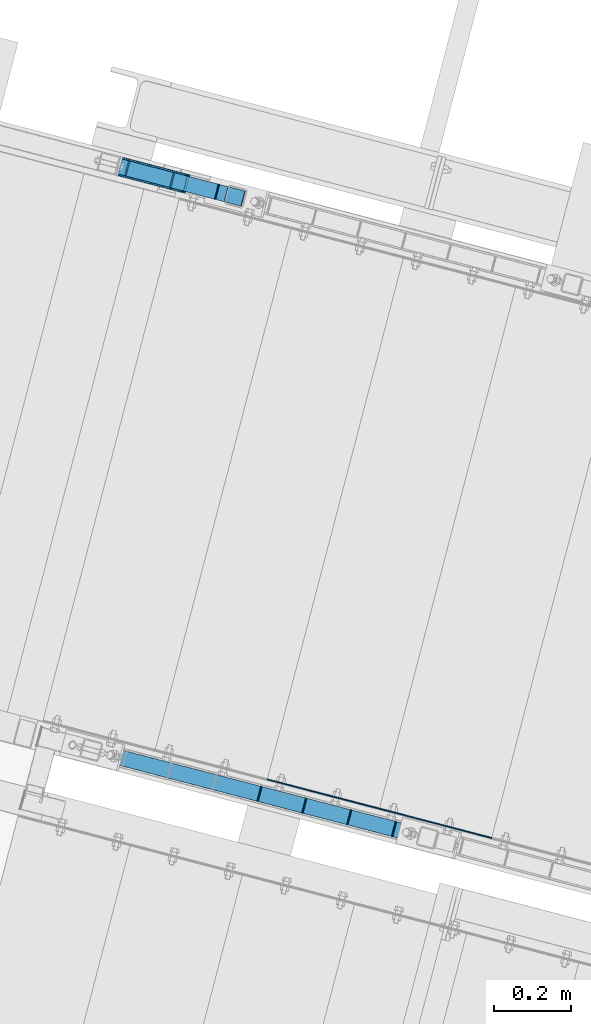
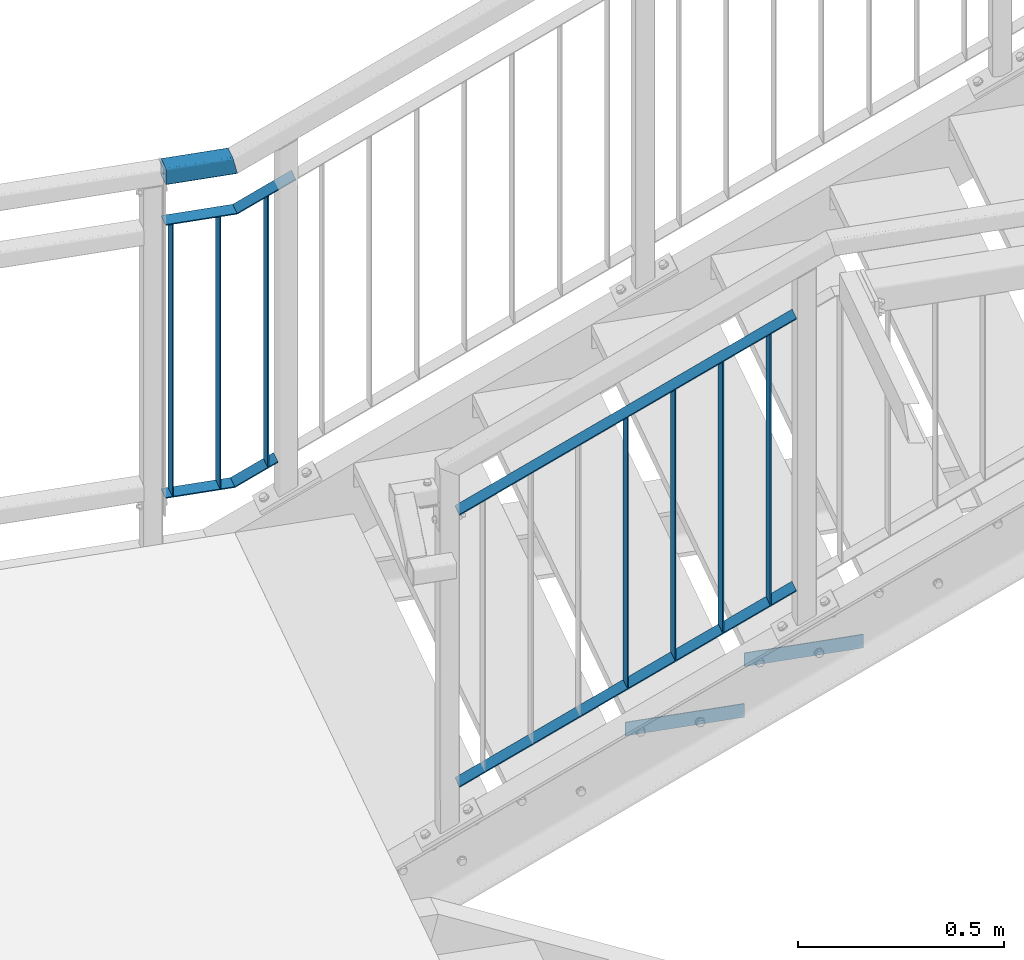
# One storey, part 73 of 169: 16 discrete accessories, 4 elements without a shape of their own.
"""IFC2X3 building model written with IfcOpenShell, lengths in millimetres."""

import ifcopenshell
import ifcopenshell.guid

model = None  # the IFC model being written
_history = None  # IfcOwnerHistory: only IFC2X3 demands one
_inside = {}  # id of a spatial element -> (the spatial element, [elements in it])
_under = {}  # id of a project, library or spatial element -> (it, [spatial elements below it])
_declared = {}  # id of a project -> (the project, [libraries it declares])
_typed = {}  # id of a type object -> (the type object, [elements of that type])
_made_of = {}  # id of a material, layer set ... -> (it, [elements and type objects made of it])


def new_model(schema):
    """Start an empty IFC model of exactly this schema.

    Asked for "IFC4X3", IfcOpenShell would pick the latest addendum, in which some entities
    have other attributes; the version numbers below select the first issue.
    IFC2X3 requires an IfcOwnerHistory on every rooted entity: one is made here for all.
    """
    global model, _history
    if schema == "IFC4X3":
        model = ifcopenshell.file(schema_version=(4, 3, 0, 0))
    else:
        model = ifcopenshell.file(schema=schema)
    _inside.clear()
    _under.clear()
    _declared.clear()
    _typed.clear()
    _made_of.clear()
    _history = None
    if model.schema == "IFC2X3":
        org = make("IfcOrganization", Name="unknown")
        user = make(
            "IfcPersonAndOrganization",
            ThePerson=make("IfcPerson", FamilyName="unknown"),
            TheOrganization=org,
        )
        app = make(
            "IfcApplication",
            ApplicationDeveloper=org,
            Version="unknown",
            ApplicationFullName="unknown",
            ApplicationIdentifier="unknown",
        )
        _history = make(
            "IfcOwnerHistory",
            OwningUser=user,
            OwningApplication=app,
            ChangeAction="ADDED",
            CreationDate=0,
        )
    return model


def make(cls, **values):
    """One entity of the class cls with the attributes given. An attribute that is None is left unset."""
    return model.create_entity(
        cls, **{name: value for name, value in values.items() if value is not None}
    )


def rooted(cls, **values):
    """An entity with a GlobalId (a new one), such as an element, a storey or a relation."""
    return make(cls, GlobalId=ifcopenshell.guid.new(), OwnerHistory=_history, **values)


def si_unit(unit_type, name, prefix=None):
    """IfcSIUnit, for example si_unit("LENGTHUNIT", "METRE", prefix="MILLI")."""
    return make("IfcSIUnit", UnitType=unit_type, Prefix=prefix, Name=name)


def assignment(units):
    """IfcUnitAssignment: the units of a project."""
    return None if units is None else make("IfcUnitAssignment", Units=units)


def point(xyz):
    """IfcCartesianPoint."""
    return None if xyz is None else make("IfcCartesianPoint", Coordinates=xyz)


def direction(xyz):
    """IfcDirection."""
    return None if xyz is None else make("IfcDirection", DirectionRatios=xyz)


def frame(location, z_axis=None, x_axis=None):
    """IfcAxis2Placement3D, a coordinate frame: its origin and axes. An axis left out is left unset."""
    return make(
        "IfcAxis2Placement3D",
        Location=point(location),
        Axis=direction(z_axis),
        RefDirection=direction(x_axis),
    )


def frame_2d(location, x_axis=None):
    """IfcAxis2Placement2D, a coordinate frame in the plane: its origin and x axis."""
    return make(
        "IfcAxis2Placement2D", Location=point(location), RefDirection=direction(x_axis)
    )


def origin_with_axes():
    """The frame at (0, 0, 0) with the z axis (0, 0, 1) and the x axis (1, 0, 0) written out."""
    return frame((0.0, 0.0, 0.0), z_axis=(0.0, 0.0, 1.0), x_axis=(1.0, 0.0, 0.0))


def origin_2d_with_axis():
    """The frame at (0, 0) in the plane with the x axis (1, 0) written out."""
    return frame_2d((0.0, 0.0), x_axis=(1.0, 0.0))


def place(relative_to, where):
    """IfcLocalPlacement: puts the frame where relative to a parent placement (None: the world)."""
    return make(
        "IfcLocalPlacement", PlacementRelTo=relative_to, RelativePlacement=where
    )


def context(
    kind, dimensions, precision=None, world=None, true_north=None, identifier=None
):
    """IfcGeometricRepresentationContext, for example the 3D "Model" context."""
    return make(
        "IfcGeometricRepresentationContext",
        ContextIdentifier=identifier,
        ContextType=kind,
        CoordinateSpaceDimension=dimensions,
        Precision=precision,
        WorldCoordinateSystem=world,
        TrueNorth=true_north,
    )


def subcontext(parent, identifier, kind, view, scale=None):
    """IfcGeometricRepresentationSubContext, for example "Body" below "Model"."""
    return make(
        "IfcGeometricRepresentationSubContext",
        ContextIdentifier=identifier,
        ContextType=kind,
        ParentContext=parent,
        TargetScale=scale,
        TargetView=view,
    )


def project(units=None, contexts=None):
    """IfcProject with its units and contexts."""
    return rooted(
        "IfcProject",
        Name="project",
        RepresentationContexts=contexts,
        UnitsInContext=assignment(units),
    )


def spatial(cls, under=None, at=None, **own):
    """A site, building, storey or space (cls), placed at a placement, below another one or the project."""
    s = rooted(cls, ObjectPlacement=at, **own)
    if under is not None:
        _under.setdefault(under.id(), (under, []))[1].append(s)
    return s


def polyline(points):
    """IfcPolyline through the points."""
    return make("IfcPolyline", Points=[point(p) for p in points])


def profile(cls, at=None, kind="AREA", **sizes):
    """A parametric profile (cls). Its sizes go by their IFC names, for example OverallWidth=200.0."""
    return make(cls, ProfileType=kind, Position=at, **sizes)


def rectangle(**sizes):
    """IfcRectangleProfileDef."""
    return profile("IfcRectangleProfileDef", **sizes)


def hollow_rectangle(**sizes):
    """IfcRectangleHollowProfileDef."""
    return profile("IfcRectangleHollowProfileDef", **sizes)


def outline(outer, holes=None, kind="AREA"):
    """IfcArbitraryClosedProfileDef: a profile drawn as a closed curve; with holes, ...WithVoids."""
    if holes is None:
        return make("IfcArbitraryClosedProfileDef", ProfileType=kind, OuterCurve=outer)
    return make(
        "IfcArbitraryProfileDefWithVoids",
        ProfileType=kind,
        OuterCurve=outer,
        InnerCurves=holes,
    )


def extrude(swept, where, along, depth):
    """IfcExtrudedAreaSolid: the profile swept, set in the frame where, extruded along a direction by depth."""
    return make(
        "IfcExtrudedAreaSolid",
        SweptArea=swept,
        Position=where,
        ExtrudedDirection=direction(along),
        Depth=depth,
    )


def boolean(op, a, b):
    """IfcBooleanResult of two solids."""
    return make("IfcBooleanResult", Operator=op, FirstOperand=a, SecondOperand=b)


def clip(a, b, op="DIFFERENCE"):
    """IfcBooleanClippingResult: the solid a cut by the half space b."""
    return make(
        "IfcBooleanClippingResult", Operator=op, FirstOperand=a, SecondOperand=b
    )


def halfspace(plane, agree):
    """IfcHalfSpaceSolid: all space on one side of the plane z = 0 of the frame plane."""
    return make(
        "IfcHalfSpaceSolid",
        BaseSurface=make("IfcPlane", Position=plane),
        AgreementFlag=agree,
    )


def shape(context_of_items, identifier, shape_type, items):
    """IfcShapeRepresentation: the items that make up one representation, for example the "Body"."""
    return make(
        "IfcShapeRepresentation",
        ContextOfItems=context_of_items,
        RepresentationIdentifier=identifier,
        RepresentationType=shape_type,
        Items=items,
    )


def material(Name=None, Category=None):
    """IfcMaterial."""
    return make("IfcMaterial", Name=Name, Category=Category)


def made_of(thing, what):
    """Note that an element or type object is made of a material, layer set ...; save() writes the relation."""
    if what is not None:
        _made_of.setdefault(what.id(), (what, []))[1].append(thing)
    return thing


def type_object(cls, material=None, **own):
    """A type object (cls), such as IfcWallType, which elements share."""
    return made_of(rooted(cls, **own), material)


def element(
    cls,
    number,
    at=None,
    inside=None,
    cuts=None,
    type_object=None,
    material=None,
    context=None,
    identifier="Body",
    shape_type=None,
    held_by="IfcProductDefinitionShape",
    body=None,
    shapes=None,
    **own,
):
    """One element of the class cls, such as IfcWall. Its Tag is "e" and its number.

    at: its placement. inside: the storey or other place that contains it. cuts: it is an
    opening in that element (IfcRelVoidsElement). A single representation is given by context,
    identifier, shape_type and body (its items); several are given by shapes. held_by: the class
    of the entity that holds the representations. save() writes the other relations.
    """
    e = rooted(cls, Tag="e%d" % number, ObjectPlacement=at, **own)
    if body is not None:
        shapes = [shape(context, identifier, shape_type, body)]
    if shapes is not None:
        e.Representation = make(held_by, Representations=shapes)
    if inside is not None:
        _inside.setdefault(inside.id(), (inside, []))[1].append(e)
    if cuts is not None:
        rooted(
            "IfcRelVoidsElement", RelatingBuildingElement=cuts, RelatedOpeningElement=e
        )
    if type_object is not None:
        _typed.setdefault(type_object.id(), (type_object, []))[1].append(e)
    return made_of(e, material)


def aggregate(whole, parts):
    """IfcRelAggregates: a whole, such as a stair, and the parts it consists of."""
    return rooted("IfcRelAggregates", RelatingObject=whole, RelatedObjects=parts)


def save(model, path):
    """Write the relations noted so far, then the file.

    IfcRelAggregates (storeys below a building ...), IfcRelContainedInSpatialStructure (elements
    in a storey), IfcRelDefinesByType, IfcRelAssociatesMaterial and IfcRelDeclares: one each for
    every whole, place, type object, material and project.
    """
    for whole, parts in _under.values():
        aggregate(whole, parts)
    for where, things in _inside.values():
        rooted(
            "IfcRelContainedInSpatialStructure",
            RelatedElements=things,
            RelatingStructure=where,
        )
    for kind, things in _typed.values():
        rooted("IfcRelDefinesByType", RelatedObjects=things, RelatingType=kind)
    for what, things in _made_of.values():
        rooted("IfcRelAssociatesMaterial", RelatedObjects=things, RelatingMaterial=what)
    for by, libraries in _declared.values():
        rooted("IfcRelDeclares", RelatingContext=by, RelatedDefinitions=libraries)
    model.write(path)


model = new_model("IFC2X3")

# Units and contexts
model_context = context("Model", 3, precision=1e-05, world=origin_with_axes())
body_context = subcontext(model_context, "Body", "Model", "MODEL_VIEW")
ifc_project = project(units=[si_unit("LENGTHUNIT", "METRE", prefix="MILLI"), si_unit("AREAUNIT", "SQUARE_METRE"), si_unit("VOLUMEUNIT", "CUBIC_METRE"), si_unit("MASSUNIT", "GRAM", prefix="KILO"), si_unit("TIMEUNIT", "SECOND"), si_unit("PLANEANGLEUNIT", "RADIAN"), si_unit("SOLIDANGLEUNIT", "STERADIAN"), si_unit("THERMODYNAMICTEMPERATUREUNIT", "DEGREE_CELSIUS"), si_unit("LUMINOUSINTENSITYUNIT", "LUMEN")], contexts=[model_context])

# Site, building, storey
site_placement = place(None, origin_with_axes())
site = spatial("IfcSite", under=ifc_project, at=site_placement, Name="Undefined", CompositionType="ELEMENT")
building_placement = place(site_placement, origin_with_axes())
building = spatial("IfcBuilding", under=site, at=building_placement, Name="Undefined", CompositionType="ELEMENT")
storey_placement = place(building_placement, origin_with_axes())
storey = spatial("IfcBuildingStorey", under=building, at=storey_placement, Name="Undefined", CompositionType="ELEMENT", Elevation=0.0)

# Assembly, discrete accessories
assembly_1_placement = place(storey_placement, origin_with_axes())
assembly_1 = element("IfcElementAssembly", 1, at=assembly_1_placement, inside=storey, Name="Steel Assembly", AssemblyPlace="NOTDEFINED", PredefinedType="RIGID_FRAME")
ifc_material_1 = material(Name="STEEL/S235")
discrete_accessory_type_1 = type_object("IfcDiscreteAccessoryType", Name="PORĘCZ")
discrete_accessory_1_placement = place(assembly_1_placement, frame((-26903.9140557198, 7103.61228726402, 13834.2487763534), z_axis=(-0.252628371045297, -0.967563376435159, 0.000136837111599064), x_axis=(-0.8654304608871, 0.225898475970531, -0.447213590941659)))
discrete_accessory_1 = element("IfcDiscreteAccessory", 2, at=discrete_accessory_1_placement, type_object=discrete_accessory_type_1, material=ifc_material_1, Name="PORĘCZ", ObjectType="BL40*3", context=body_context, shape_type="Clipping", body=[
    clip(clip(extrude(rectangle(XDim=3.0, YDim=40.0, at=origin_2d_with_axis()), frame((1019.8269139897, 5.66117660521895e-14, 8.60393801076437e-13), z_axis=(-1.0, -3.46944695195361e-18, -1.38777878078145e-17), x_axis=(1.73472347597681e-18, -1.0, 0.0)), (0.0, 0.0, 1.0), 988.69), halfspace(frame((1006.23639287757, 11.1803398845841, 1000.00000000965), z_axis=(-0.89442719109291, 0.44721359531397, 3.67724048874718e-10), x_axis=(-0.44721359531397, -0.89442719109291, 6.42512531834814e-12)), True)), halfspace(frame((44.727161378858, -11.1803398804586, 999.999999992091), z_axis=(0.894427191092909, -0.447213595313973, -3.67723235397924e-10), x_axis=(0.447213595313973, 0.894427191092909, -6.42523900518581e-12)), True)),
])
discrete_accessory_2_placement = place(assembly_1_placement, frame((-27358.6768775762, 7222.33740801, 13747.1970323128), z_axis=(-0.967563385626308, 0.252628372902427, -1.72000000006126e-07), x_axis=(-3.45692487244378e-05, -0.000132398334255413, -0.999999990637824)))
discrete_accessory_2 = element("IfcDiscreteAccessory", 3, at=discrete_accessory_2_placement, type_object=discrete_accessory_type_1, material=ifc_material_1, Name="PORĘCZ", ObjectType="BL40*3", context=body_context, shape_type="Clipping", body=[
    clip(clip(clip(extrude(outline(polyline([(953.32294910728, 20.0000000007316), (953.322949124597, -19.9999999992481), (149.627900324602, -19.9999999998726), (149.627900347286, 20.0000000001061), (953.32294910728, 20.0000000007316)])), frame((1.81898940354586e-12, -1.77635442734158e-15, -1.50000000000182), z_axis=(0.0, 0.0, 1.0), x_axis=(1.0, 0.0, 0.0)), (0.0, 0.0, 1.0), 3.0), halfspace(frame((149.292490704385, 1000.00000000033, -0.670820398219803), z_axis=(0.894427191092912, -5.07357340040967e-10, -0.447213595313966), x_axis=(-0.447213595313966, -3.31775709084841e-10, -0.894427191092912)), True)), halfspace(frame((953.658358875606, 1000.00000000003, 0.670820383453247), z_axis=(-0.89442719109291, -3.87067713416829e-10, 0.44721359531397), x_axis=(0.44721359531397, 3.3177479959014e-10, 0.89442719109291)), True)), halfspace(frame((22.3606799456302, 999.999999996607, -11.1803398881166), z_axis=(0.894427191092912, -5.07357340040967e-10, -0.447213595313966), x_axis=(-0.447213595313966, -3.31775709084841e-10, -0.894427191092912)), True)),
])
discrete_accessory_3_placement = place(assembly_1_placement, frame((-27242.5671971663, 7192.02994716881, 13807.1970316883), z_axis=(-0.967563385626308, 0.252628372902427, -1.72000000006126e-07), x_axis=(-3.45692487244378e-05, -0.000132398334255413, -0.999999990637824)))
discrete_accessory_3 = element("IfcDiscreteAccessory", 4, at=discrete_accessory_3_placement, type_object=discrete_accessory_type_1, material=ifc_material_1, Name="PORĘCZ", ObjectType="BL40*3", context=body_context, shape_type="Clipping", body=[
    clip(clip(clip(extrude(outline(polyline([(953.32294910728, 20.0000000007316), (953.322949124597, -19.9999999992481), (149.627900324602, -19.9999999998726), (149.627900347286, 20.0000000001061), (953.32294910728, 20.0000000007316)])), frame((1.81898940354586e-12, -1.77635442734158e-15, -1.50000000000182), z_axis=(0.0, 0.0, 1.0), x_axis=(1.0, 0.0, 0.0)), (0.0, 0.0, 1.0), 3.0), halfspace(frame((149.292490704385, 1000.00000000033, -0.670820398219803), z_axis=(0.894427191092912, -5.07357340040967e-10, -0.447213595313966), x_axis=(-0.447213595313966, -3.31775709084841e-10, -0.894427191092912)), True)), halfspace(frame((953.658358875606, 1000.00000000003, 0.670820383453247), z_axis=(-0.89442719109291, -3.87067713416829e-10, 0.44721359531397), x_axis=(0.44721359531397, 3.3177479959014e-10, 0.89442719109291)), True)), halfspace(frame((22.3606799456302, 999.999999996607, -11.1803398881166), z_axis=(0.894427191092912, -5.07357340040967e-10, -0.447213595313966), x_axis=(-0.447213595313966, -3.31775709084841e-10, -0.894427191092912)), True)),
])
discrete_accessory_4_placement = place(assembly_1_placement, frame((-27126.4575167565, 7161.72248632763, 13867.1970310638), z_axis=(-0.967563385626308, 0.252628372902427, -1.72000000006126e-07), x_axis=(-3.45692487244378e-05, -0.000132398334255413, -0.999999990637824)))
discrete_accessory_4 = element("IfcDiscreteAccessory", 5, at=discrete_accessory_4_placement, type_object=discrete_accessory_type_1, material=ifc_material_1, Name="PORĘCZ", ObjectType="BL40*3", context=body_context, shape_type="Clipping", body=[
    clip(clip(clip(extrude(outline(polyline([(953.32294910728, 20.0000000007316), (953.322949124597, -19.9999999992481), (149.627900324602, -19.9999999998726), (149.627900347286, 20.0000000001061), (953.32294910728, 20.0000000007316)])), frame((1.81898940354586e-12, -1.77635442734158e-15, -1.50000000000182), z_axis=(0.0, 0.0, 1.0), x_axis=(1.0, 0.0, 0.0)), (0.0, 0.0, 1.0), 3.0), halfspace(frame((149.292490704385, 1000.00000000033, -0.670820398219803), z_axis=(0.894427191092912, -5.07357340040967e-10, -0.447213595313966), x_axis=(-0.447213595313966, -3.31775709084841e-10, -0.894427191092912)), True)), halfspace(frame((953.658358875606, 1000.00000000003, 0.670820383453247), z_axis=(-0.89442719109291, -3.87067713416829e-10, 0.44721359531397), x_axis=(0.44721359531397, 3.3177479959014e-10, 0.89442719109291)), True)), halfspace(frame((22.3606799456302, 999.999999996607, -11.1803398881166), z_axis=(0.894427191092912, -5.07357340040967e-10, -0.447213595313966), x_axis=(-0.447213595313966, -3.31775709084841e-10, -0.894427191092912)), True)),
])
discrete_accessory_5_placement = place(assembly_1_placement, frame((-27010.3478363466, 7131.41502548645, 13927.1970304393), z_axis=(-0.967563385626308, 0.252628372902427, -1.72000000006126e-07), x_axis=(-3.45692487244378e-05, -0.000132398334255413, -0.999999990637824)))
discrete_accessory_5 = element("IfcDiscreteAccessory", 6, at=discrete_accessory_5_placement, type_object=discrete_accessory_type_1, material=ifc_material_1, Name="PORĘCZ", ObjectType="BL40*3", context=body_context, shape_type="Clipping", body=[
    clip(clip(clip(extrude(outline(polyline([(953.32294910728, 20.0000000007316), (953.322949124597, -19.9999999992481), (149.627900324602, -19.9999999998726), (149.627900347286, 20.0000000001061), (953.32294910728, 20.0000000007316)])), frame((1.81898940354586e-12, -1.77635442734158e-15, -1.50000000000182), z_axis=(0.0, 0.0, 1.0), x_axis=(1.0, 0.0, 0.0)), (0.0, 0.0, 1.0), 3.0), halfspace(frame((149.292490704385, 1000.00000000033, -0.670820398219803), z_axis=(0.894427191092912, -5.07357340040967e-10, -0.447213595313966), x_axis=(-0.447213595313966, -3.31775709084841e-10, -0.894427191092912)), True)), halfspace(frame((953.658358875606, 1000.00000000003, 0.670820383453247), z_axis=(-0.89442719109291, -3.87067713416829e-10, 0.44721359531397), x_axis=(0.44721359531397, 3.3177479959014e-10, 0.89442719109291)), True)), halfspace(frame((22.3606799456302, 999.999999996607, -11.1803398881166), z_axis=(0.894427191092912, -5.07357340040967e-10, -0.447213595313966), x_axis=(-0.447213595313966, -3.31775709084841e-10, -0.894427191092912)), True)),
])
discrete_accessory_6_placement = place(assembly_1_placement, frame((-27818.310709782, 7342.17800012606, 12554.6970434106), z_axis=(-0.252628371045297, -0.967563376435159, 0.000136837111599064), x_axis=(0.8654304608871, -0.225898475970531, 0.447213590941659)))
discrete_accessory_6 = element("IfcDiscreteAccessory", 7, at=discrete_accessory_6_placement, type_object=discrete_accessory_type_1, material=ifc_material_1, Name="PORĘCZ", ObjectType="BL40*3", context=body_context, shape_type="CSG", body=[
    boolean("DIFFERENCE", boolean("DIFFERENCE", boolean("DIFFERENCE", boolean("DIFFERENCE", extrude(rectangle(XDim=3.0, YDim=40.0, at=origin_2d_with_axis()), frame((1024.28206810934, -3.694837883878e-12, -9.23073055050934e-13), z_axis=(-1.0, -3.46944695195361e-18, -1.38777878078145e-17), x_axis=(1.73472347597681e-18, -1.0, 0.0)), (0.0, 0.0, 1.0), 986.43), extrude(rectangle(XDim=51.0, YDim=51.0, at=origin_2d_with_axis()), frame((84.9705831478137, 114.03946683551, -1.13972362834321e-07), z_axis=(-0.44721359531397, -0.89442719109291, 6.42512531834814e-12), x_axis=(0.894427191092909, -0.447213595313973, -3.67723235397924e-10)), (0.0, 0.0, 1.0), 280.0)), extrude(rectangle(XDim=51.0, YDim=51.0, at=origin_2d_with_axis()), frame((1096.79134416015, 125.219806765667, -4.99262399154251e-07), z_axis=(-0.44721359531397, -0.89442719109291, 6.42512531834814e-12), x_axis=(0.894427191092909, -0.447213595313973, -3.67723235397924e-10)), (0.0, 0.0, 1.0), 280.0)), halfspace(frame((1011.8207607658, 11.1803398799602, 999.999999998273), z_axis=(-0.89442719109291, 0.44721359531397, 3.67724048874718e-10), x_axis=(-0.44721359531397, -0.89442719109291, 6.42512531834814e-12)), True)), halfspace(frame((50.3115292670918, -11.1803398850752, 1000.00000000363), z_axis=(0.894427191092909, -0.447213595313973, -3.67723235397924e-10), x_axis=(0.447213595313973, 0.894427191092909, -6.42523900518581e-12)), True)),
])
aggregate(assembly_1, [discrete_accessory_1, discrete_accessory_2, discrete_accessory_3, discrete_accessory_4, discrete_accessory_5, discrete_accessory_6])

assembly_2_placement = place(storey_placement, origin_with_axes())
assembly_2 = element("IfcElementAssembly", 8, at=assembly_2_placement, inside=storey, Name="Steel Assembly", AssemblyPlace="NOTDEFINED", PredefinedType="RIGID_FRAME")
discrete_accessory_7_placement = place(assembly_2_placement, frame((-27700.7938893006, 8841.237541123, 13454.9945164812), z_axis=(-0.967563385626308, 0.252628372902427, -1.72000000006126e-07), x_axis=(-3.45692487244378e-05, -0.000132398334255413, -0.999999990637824)))
discrete_accessory_7 = element("IfcDiscreteAccessory", 9, at=discrete_accessory_7_placement, type_object=discrete_accessory_type_1, material=ifc_material_1, Name="PORĘCZ", ObjectType="BL40*3", context=body_context, shape_type="Clipping", body=[
    clip(clip(extrude(outline(polyline([(953.5, 20.0000000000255), (953.5, -20.0000000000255), (146.5, -20.0000000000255), (146.5, 20.0000000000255), (953.5, 20.0000000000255)])), frame((1.81898940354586e-12, -1.77635442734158e-15, -1.50000000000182), z_axis=(0.0, 0.0, 1.0), x_axis=(1.0, 0.0, 0.0)), (0.0, 0.0, 1.0), 3.0), halfspace(frame((146.5, 1000.00000000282, -1.78988557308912e-09), z_axis=(1.0, 0.0, 0.0), x_axis=(-2.54700353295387e-10, 0.0, -1.0)), True)), halfspace(frame((953.5, 999.999999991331, -2.08819983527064e-09), z_axis=(-1.0, -3.46944695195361e-18, -1.38777878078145e-17), x_axis=(0.0, 0.0, 1.0)), True)),
])
discrete_accessory_8_placement = place(assembly_2_placement, frame((-27584.6862830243, 8810.92213637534, 13454.9945164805), z_axis=(-0.967563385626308, 0.252628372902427, -1.72000000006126e-07), x_axis=(-3.45692487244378e-05, -0.000132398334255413, -0.999999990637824)))
discrete_accessory_8 = element("IfcDiscreteAccessory", 10, at=discrete_accessory_8_placement, type_object=discrete_accessory_type_1, material=ifc_material_1, Name="PORĘCZ", ObjectType="BL40*3", context=body_context, shape_type="Clipping", body=[
    clip(clip(extrude(outline(polyline([(953.5, 20.0000000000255), (953.5, -20.0000000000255), (146.5, -20.0000000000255), (146.5, 20.0000000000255), (953.5, 20.0000000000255)])), frame((1.81898940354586e-12, -1.77635442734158e-15, -1.50000000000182), z_axis=(0.0, 0.0, 1.0), x_axis=(1.0, 0.0, 0.0)), (0.0, 0.0, 1.0), 3.0), halfspace(frame((146.5, 1000.00000000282, -1.78988557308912e-09), z_axis=(1.0, 0.0, 0.0), x_axis=(-2.54700353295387e-10, 0.0, -1.0)), True)), halfspace(frame((953.5, 999.999999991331, -2.08819983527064e-09), z_axis=(-1.0, -3.46944695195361e-18, -1.38777878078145e-17), x_axis=(0.0, 0.0, 1.0)), True)),
])
discrete_accessory_9_placement = place(assembly_2_placement, frame((-27468.5786767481, 8780.60673162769, 13454.9945164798), z_axis=(-0.967563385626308, 0.252628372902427, -1.72000000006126e-07), x_axis=(-3.45692487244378e-05, -0.000132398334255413, -0.999999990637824)))
discrete_accessory_9 = element("IfcDiscreteAccessory", 11, at=discrete_accessory_9_placement, type_object=discrete_accessory_type_1, material=ifc_material_1, Name="PORĘCZ", ObjectType="BL40*3", context=body_context, shape_type="Clipping", body=[
    clip(clip(extrude(outline(polyline([(911.322948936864, 20.0000000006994), (911.322948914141, -19.9999999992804), (107.62790052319, -19.9999999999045), (107.627900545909, 20.0000000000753), (911.322948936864, 20.0000000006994)])), frame((1.81898940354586e-12, -1.77635442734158e-15, -1.50000000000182), z_axis=(0.0, 0.0, 1.0), x_axis=(1.0, 0.0, 0.0)), (0.0, 0.0, 1.0), 3.0), halfspace(frame((107.292490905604, 999.999999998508, -0.67082039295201), z_axis=(0.894427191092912, -5.07357340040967e-10, -0.447213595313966), x_axis=(-0.447213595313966, -3.31775709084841e-10, -0.894427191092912)), True)), halfspace(frame((911.65835968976, 999.999999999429, 0.670820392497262), z_axis=(-0.89442719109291, -3.87067713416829e-10, 0.44721359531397), x_axis=(0.44721359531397, 3.3177479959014e-10, 0.89442719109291)), True)),
])
discrete_accessory_10_placement = place(assembly_2_placement, frame((-27483.0971398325, 8784.37696028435, 13309.994517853), z_axis=(3.4552000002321e-05, 0.000132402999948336, 0.999999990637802), x_axis=(-0.967563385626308, 0.252628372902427, -1.72000000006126e-07)))
discrete_accessory_10 = element("IfcDiscreteAccessory", 12, at=discrete_accessory_10_placement, type_object=discrete_accessory_type_1, material=ifc_material_1, Name="PORĘCZ", ObjectType="BL40*3", context=body_context, shape_type="Clipping", body=[
    clip(clip(extrude(outline(polyline([(244.000000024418, 19.9999999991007), (244.000000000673, -20.0000000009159), (63.0983001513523, -20.0000000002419), (63.0983001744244, 19.9999999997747), (244.000000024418, 19.9999999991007)])), frame((1.81898940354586e-12, -1.77635442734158e-15, -1.50000000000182), z_axis=(0.0, 0.0, 1.0), x_axis=(1.0, 0.0, 0.0)), (0.0, 0.0, 1.0), 3.0), halfspace(frame((244.000000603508, 1000.00000000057, -1.49339030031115e-09), z_axis=(-1.0, -3.46944695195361e-18, -1.38777878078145e-17), x_axis=(0.0, 0.0, 1.0)), True)), halfspace(frame((63.4524021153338, 1.31080923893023e-09, 1.50000001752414), z_axis=(-0.973248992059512, 5.5925641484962e-10, 0.229752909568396), x_axis=(1.73472347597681e-18, -1.0, 0.0)), False)),
])
discrete_accessory_11_placement = place(assembly_2_placement, frame((-27725.0159874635, 8847.42680994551, 12499.9945254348), z_axis=(-3.45692487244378e-05, -0.000132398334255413, -0.999999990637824), x_axis=(0.967563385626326, -0.252628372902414, 0.0)))
discrete_accessory_11 = element("IfcDiscreteAccessory", 13, at=discrete_accessory_11_placement, type_object=discrete_accessory_type_1, material=ifc_material_1, Name="PORĘCZ", ObjectType="BL40*3", context=body_context, shape_type="Clipping", body=[
    clip(clip(extrude(outline(polyline([(6.00000000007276, 20.00000000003), (181.000000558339, 20.0000000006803), (181.000000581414, -19.9999999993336), (6.00000002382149, -19.9999999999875), (6.00000000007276, 20.00000000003)])), frame((1.81898940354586e-12, -1.77635442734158e-15, -1.50000000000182), z_axis=(0.0, 0.0, 1.0), x_axis=(1.0, 0.0, 0.0)), (0.0, 0.0, 1.0), 3.0), halfspace(frame((5.99999942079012, 1000.00000000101, 1.14596332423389e-09), z_axis=(1.0, 0.0, 0.0), x_axis=(-2.54700353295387e-10, 0.0, -1.0)), True)), halfspace(frame((181.354102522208, -2.16383114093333e-07, 1.50000001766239), z_axis=(-0.973248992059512, 5.5925641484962e-10, 0.229752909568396), x_axis=(1.73472347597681e-18, -1.0, 0.0)), True)),
])
discrete_accessory_12_placement = place(assembly_2_placement, frame((-27400.8466718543, 8762.91204154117, 13384.0462615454), z_axis=(-0.252628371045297, -0.967563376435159, 0.000136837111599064), x_axis=(-0.8654304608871, 0.225898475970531, -0.447213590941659)))
discrete_accessory_12 = element("IfcDiscreteAccessory", 14, at=discrete_accessory_12_placement, type_object=discrete_accessory_type_1, material=ifc_material_1, Name="PORĘCZ", ObjectType="BL40*3", context=body_context, shape_type="Clipping", body=[
    clip(extrude(rectangle(XDim=3.0, YDim=40.0, at=origin_2d_with_axis()), frame((185.4596374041, 1.0295077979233e-14, 6.84963734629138e-13), z_axis=(-1.0, -3.46944695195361e-18, -1.38777878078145e-17), x_axis=(1.73472347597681e-18, -1.0, 0.0)), (0.0, 0.0, 1.0), 185.46), halfspace(frame((165.230632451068, -1.50000000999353, -5.08706989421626e-07), z_axis=(-0.973248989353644, 0.229752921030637, 2.43852534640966e-10), x_axis=(-2.54700353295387e-10, 0.0, -1.0)), True)),
])
discrete_accessory_13_placement = place(assembly_2_placement, frame((-27622.8989571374, 8820.75897392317, 12462.2654013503), z_axis=(-0.252628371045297, -0.967563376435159, 0.000136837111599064), x_axis=(0.8654304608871, -0.225898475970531, 0.447213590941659)))
discrete_accessory_13 = element("IfcDiscreteAccessory", 15, at=discrete_accessory_13_placement, type_object=discrete_accessory_type_1, material=ifc_material_1, Name="PORĘCZ", ObjectType="BL40*3", context=body_context, shape_type="CSG", body=[
    boolean("DIFFERENCE", boolean("DIFFERENCE", extrude(rectangle(XDim=3.0, YDim=40.0, at=origin_2d_with_axis()), frame((234.000000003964, -3.63797880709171e-12, -5.24531590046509e-15), z_axis=(-1.0, -3.46944695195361e-18, -1.38777878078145e-17), x_axis=(1.73472347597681e-18, -1.0, 0.0)), (0.0, 0.0, 1.0), 159.47), extrude(rectangle(XDim=51.0, YDim=51.0, at=origin_2d_with_axis()), frame((296.791344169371, 125.219806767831, -2.6189690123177e-07), z_axis=(-0.44721359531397, -0.89442719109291, 6.42512531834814e-12), x_axis=(0.894427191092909, -0.447213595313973, -3.67723235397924e-10)), (0.0, 0.0, 1.0), 280.0)), halfspace(frame((84.0107850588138, -1.50000000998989, -7.46922523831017e-10), z_axis=(-0.973248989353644, 0.229752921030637, 2.43852534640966e-10), x_axis=(-2.54700353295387e-10, 0.0, -1.0)), False)),
])
discrete_accessory_14_placement = place(assembly_2_placement, frame((-27420.2005074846, 8767.97531298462, 13454.994516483), z_axis=(-0.252628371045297, -0.967563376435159, 0.000136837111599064), x_axis=(-0.967563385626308, 0.252628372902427, -1.72000000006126e-07)))
discrete_accessory_14 = element("IfcDiscreteAccessory", 16, at=discrete_accessory_14_placement, type_object=discrete_accessory_type_1, material=ifc_material_1, Name="PORĘCZ", ObjectType="RHS50*3", context=body_context, shape_type="Clipping", body=[
    clip(clip(extrude(hollow_rectangle(XDim=50.0, YDim=50.0, WallThickness=3.0, InnerFilletRadius=3.0, OuterFilletRadius=6.0, at=origin_2d_with_axis()), frame((308.999999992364, 0.0, 2.35950148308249e-13), z_axis=(-1.0, -3.46944695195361e-18, -1.38777878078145e-17), x_axis=(1.73472347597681e-18, -1.0, 0.0)), (0.0, 0.0, 1.0), 205.65), halfspace(frame((309.000000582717, 1.42608769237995e-09, 1000.00000000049), z_axis=(-1.0, -3.46944695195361e-18, -1.38777878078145e-17), x_axis=(1.73472347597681e-18, -1.0, 0.0)), True)), halfspace(frame((139.901699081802, -25.0000000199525, 2.08149231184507e-08), z_axis=(-0.973248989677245, -0.22975291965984, 5.59252465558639e-10), x_axis=(-2.54700353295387e-10, 0.0, -1.0)), False)),
])
aggregate(assembly_2, [discrete_accessory_7, discrete_accessory_8, discrete_accessory_9, discrete_accessory_10, discrete_accessory_11, discrete_accessory_12, discrete_accessory_13, discrete_accessory_14])

# Assembly, discrete accessory
assembly_3_placement = place(storey_placement, origin_with_axes())
assembly_3 = element("IfcElementAssembly", 17, at=assembly_3_placement, inside=storey, Name="Steel Assembly", AssemblyPlace="NOTDEFINED", PredefinedType="RIGID_FRAME")
ifc_material_2 = material(Name="STEEL/S235JR")
discrete_accessory_type_2 = type_object("IfcDiscreteAccessoryType", Name="ANGLE")
discrete_accessory_15_placement = place(assembly_3_placement, frame((-26757.9594002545, 7108.2743502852, 12780.0957858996), z_axis=(0.252562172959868, 0.967580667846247, 0.0), x_axis=(-0.967580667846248, 0.252562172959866, 0.0)))
discrete_accessory_15 = element("IfcDiscreteAccessory", 18, at=discrete_accessory_15_placement, type_object=discrete_accessory_type_2, material=ifc_material_2, Name="ANGLE", ObjectType="3*40", context=body_context, shape_type="SweptSolid", body=[
    extrude(rectangle(XDim=40.0, YDim=3.0, at=origin_2d_with_axis()), frame((300.000000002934, 1.81898940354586e-12, -1.81898940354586e-12), z_axis=(-1.0, -3.46944695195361e-18, -1.38777878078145e-17), x_axis=(1.73472347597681e-18, -1.0, 0.0)), (0.0, 0.0, 1.0), 300.0),
])
aggregate(assembly_3, [discrete_accessory_15])

assembly_4_placement = place(storey_placement, origin_with_axes())
assembly_4 = element("IfcElementAssembly", 19, at=assembly_4_placement, inside=storey, Name="Steel Assembly", AssemblyPlace="NOTDEFINED", PredefinedType="RIGID_FRAME")
discrete_accessory_16_placement = place(assembly_4_placement, frame((-27048.2336039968, 7184.04300309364, 12630.0957859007), z_axis=(0.252562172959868, 0.967580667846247, 0.0), x_axis=(-0.967580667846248, 0.252562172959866, 0.0)))
discrete_accessory_16 = element("IfcDiscreteAccessory", 20, at=discrete_accessory_16_placement, type_object=discrete_accessory_type_2, material=ifc_material_2, Name="ANGLE", ObjectType="3*40", context=body_context, shape_type="SweptSolid", body=[
    extrude(rectangle(XDim=40.0, YDim=3.0, at=origin_2d_with_axis()), frame((300.000000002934, 1.81898940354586e-12, -1.81898940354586e-12), z_axis=(-1.0, -3.46944695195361e-18, -1.38777878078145e-17), x_axis=(1.73472347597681e-18, -1.0, 0.0)), (0.0, 0.0, 1.0), 300.0),
])
aggregate(assembly_4, [discrete_accessory_16])

save(model, "model.ifc")
